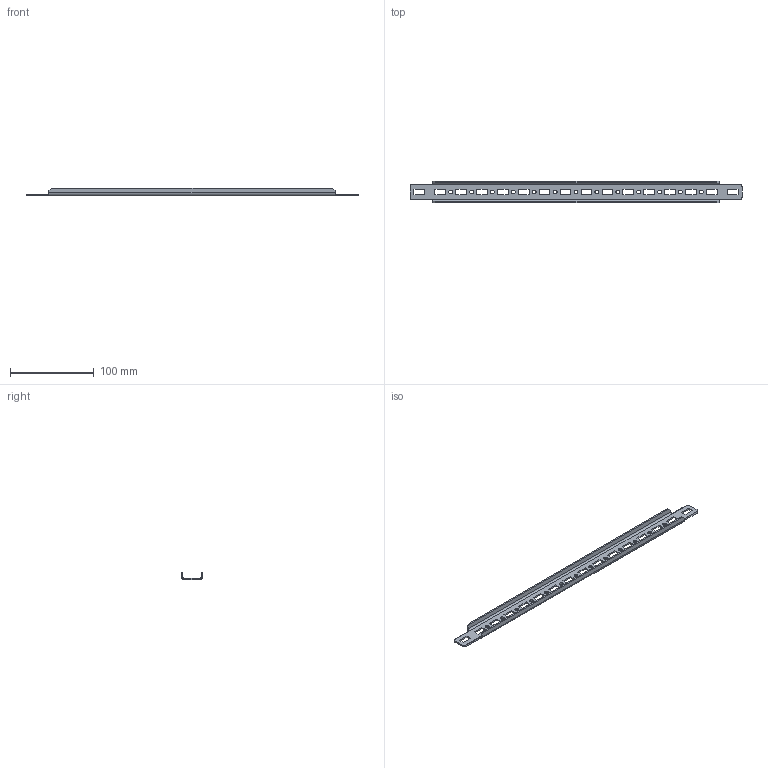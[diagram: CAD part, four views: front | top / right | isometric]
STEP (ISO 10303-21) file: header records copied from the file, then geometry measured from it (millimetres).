
FILE_DESCRIPTION (( 'STEP AP203' ), '1' );
FILE_NAME ('15672.step', '2013-04-17T10:17:05', ( '' ), ( '' ), 'SwSTEP 2.0', 'SolidWorks 2010', '' );
FILE_SCHEMA (( 'CONFIG_CONTROL_DESIGN' ));
Length unit declared in the file: inch
Products named in the file (2): 15672; 87798495
Assembly tree (1 placements, depth 2):
  15672
    87798495
Bounding box: 397.23 x 25.43 x 9.51 mm (x, y, z)
Volume: 23011.8 mm3; surface area: 28202.8 mm2
Topology: 1 solids, 1 shells, 128 faces, 362 edges, 236 vertices
Faces by surface type: plane 90, cylinder 34, bspline 4
Entity records: 4474 total; most frequent: CARTESIAN_POINT 826, ORIENTED_EDGE 724, DIRECTION 670, EDGE_CURVE 362, LINE 278, VECTOR 278, VERTEX_POINT 236, AXIS2_PLACEMENT_3D 196
